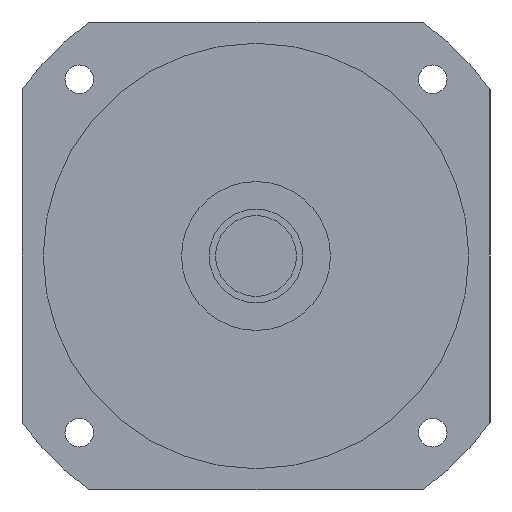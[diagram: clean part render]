
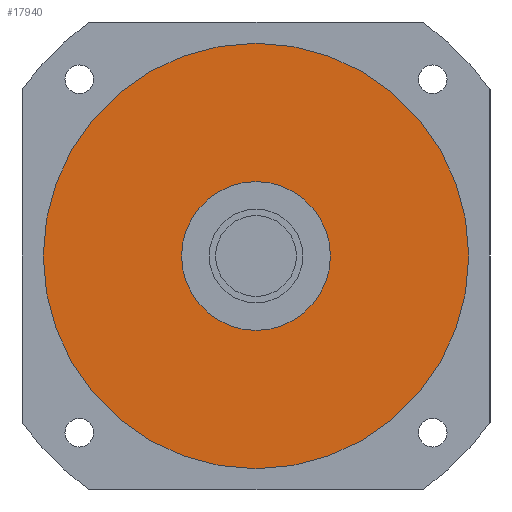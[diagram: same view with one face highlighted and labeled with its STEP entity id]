
A CAD part, left-side view. The second image highlights one B-rep face of the part: STEP entity #17940.
In plain terms, the highlighted planar face has unit normal (-1, 0, 0) as drawn and (0, 0, -1) by its records, which use the part's own axes.
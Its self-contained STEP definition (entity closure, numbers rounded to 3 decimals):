
#17360=CARTESIAN_POINT('',(100.,0.,-79.7));
#17370=VERTEX_POINT('',#17360);
#17460=CARTESIAN_POINT('',(-100.,0.,-79.7));
#17470=VERTEX_POINT('',#17460);
#17500=CARTESIAN_POINT('',(0.,0.,
-79.7));
#17510=DIRECTION('',(0.,0.,1.));
#17520=DIRECTION('',(0.,1.,0.));
#17530=AXIS2_PLACEMENT_3D('',#17500,#17510,#17520);
#17540=CIRCLE('',#17530,100.);
#17550=CARTESIAN_POINT('',(0.,100.,-79.7));
#17560=VERTEX_POINT('',#17550);
#17570=EDGE_CURVE('',#17560,#17470,#17540,.T.);
#17590=EDGE_CURVE('',#17370,#17560,#17540,.T.);
#17640=CARTESIAN_POINT('',(0.,0.,
-79.7));
#17650=DIRECTION('',(0.,0.,1.));
#17660=DIRECTION('',(-1.,0.,0.));
#17670=AXIS2_PLACEMENT_3D('',#17640,#17650,#17660);
#17680=PLANE('',#17670);
#17690=CARTESIAN_POINT('',(0.,0.,
-79.7));
#17700=DIRECTION('',(0.,0.,1.));
#17710=DIRECTION('',(0.,1.,0.));
#17720=AXIS2_PLACEMENT_3D('',#17690,#17700,#17710);
#17730=CIRCLE('',#17720,35.);
#17740=CARTESIAN_POINT('',(-35.,0.,-79.7));
#17750=VERTEX_POINT('',#17740);
#17760=CARTESIAN_POINT('',(35.,0.,-79.7));
#17770=VERTEX_POINT('',#17760);
#17780=EDGE_CURVE('',#17750,#17770,#17730,.T.);
#17790=ORIENTED_EDGE('',*,*,#17780,.T.);
#17800=CARTESIAN_POINT('',(0.,35.,-79.7));
#17810=VERTEX_POINT('',#17800);
#17820=EDGE_CURVE('',#17810,#17750,#17730,.T.);
#17830=ORIENTED_EDGE('',*,*,#17820,.T.);
#17840=EDGE_CURVE('',#17770,#17810,#17730,.T.);
#17850=ORIENTED_EDGE('',*,*,#17840,.T.);
#17860=EDGE_LOOP('',(#17850,#17830,#17790));
#17870=FACE_BOUND('',#17860,.T.);
#17880=ORIENTED_EDGE('',*,*,#17570,.F.);
#17890=EDGE_CURVE('',#17470,#17370,#17540,.T.);
#17900=ORIENTED_EDGE('',*,*,#17890,.F.);
#17910=ORIENTED_EDGE('',*,*,#17590,.F.);
#17920=EDGE_LOOP('',(#17910,#17900,#17880));
#17930=FACE_OUTER_BOUND('',#17920,.T.);
#17940=ADVANCED_FACE('',(#17870,#17930),#17680,.F.);
